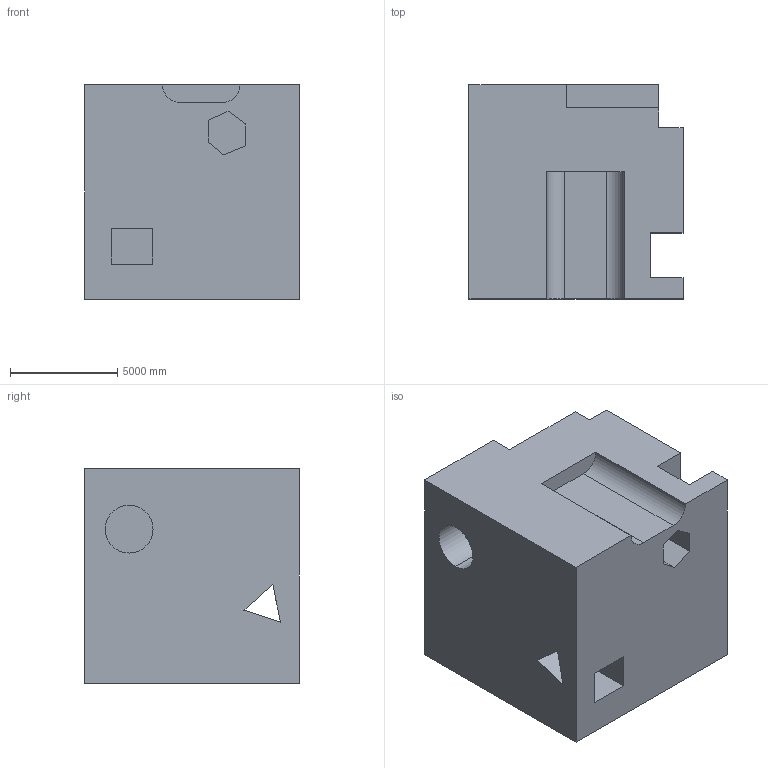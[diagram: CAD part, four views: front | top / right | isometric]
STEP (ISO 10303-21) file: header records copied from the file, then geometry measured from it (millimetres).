
FILE_DESCRIPTION (( 'STEP AP203' ), '1' );
FILE_NAME ('1769.STEP', '2022-08-19T12:44:23', ( 'user' ), ( '' ), 'SwSTEP 2.0', 'SolidWorks 2021', '' );
FILE_SCHEMA (( 'CONFIG_CONTROL_DESIGN' ));
Length unit declared in the file: centimetre
Products named in the file (1): 1769
Bounding box: 10000 x 10000 x 10000 mm (x, y, z)
Volume: 847145662705.5 mm3; surface area: 791816496.7 mm2
Topology: 1 solids, 1 shells, 39 faces, 111 edges, 74 vertices
Faces by surface type: plane 35, cylinder 4
Entity records: 1338 total; most frequent: CARTESIAN_POINT 225, ORIENTED_EDGE 222, DIRECTION 199, EDGE_CURVE 111, VECTOR 103, LINE 103, VERTEX_POINT 74, AXIS2_PLACEMENT_3D 48
